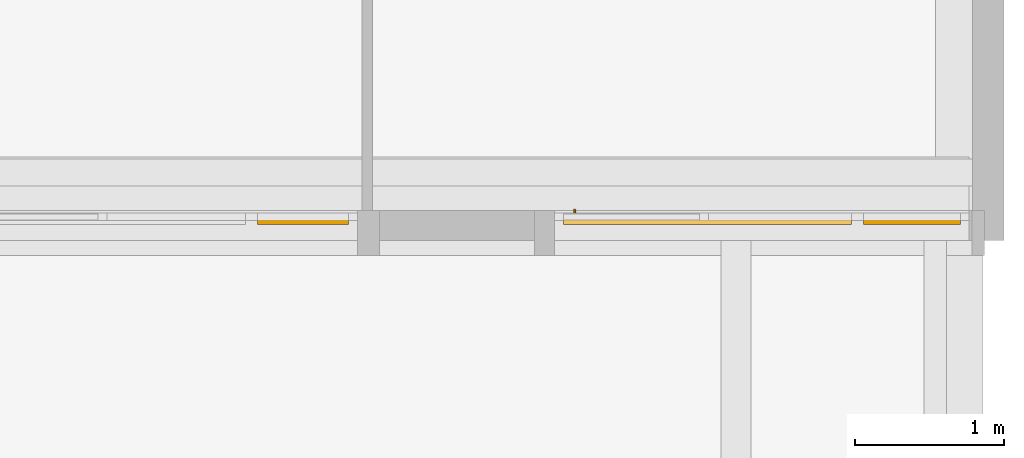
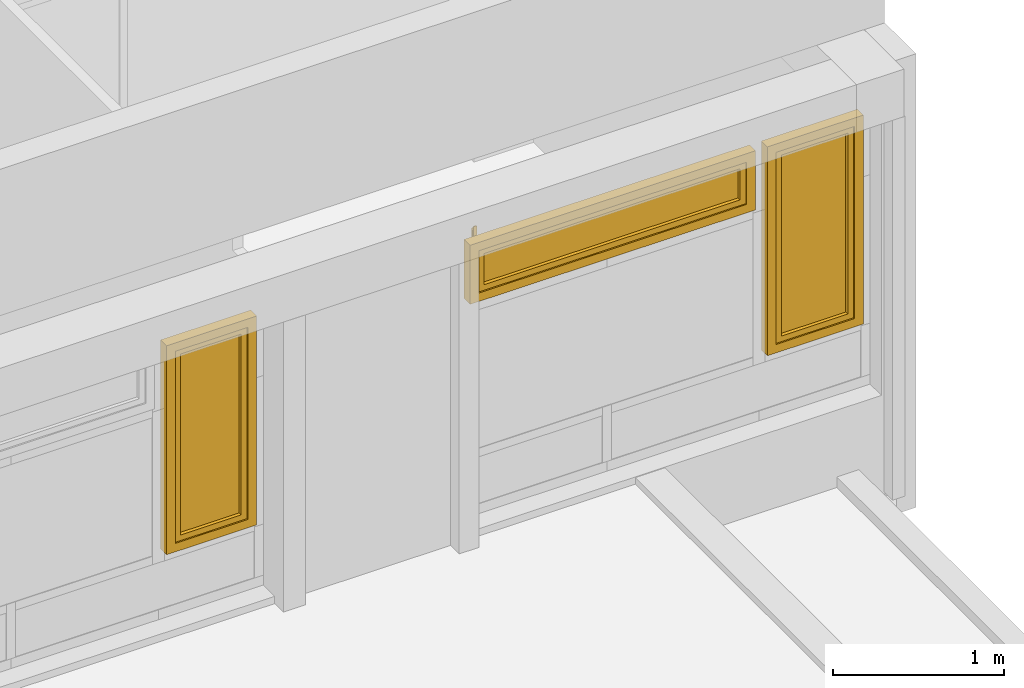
# One storey, part 44 of 49: 3 windows, 2 elements without a shape of their own.
"""IFC4 building model written with IfcOpenShell, lengths in metres."""

from ifc_helpers import new_model, entity, si_unit, converted_unit, derived_unit, direction, frame, origin, place, context, subcontext, project, spatial, polygons, source, transform, mapped, material, material_list, constituent, constituent_set, type_object, type_shapes, element, aggregate, save


model = new_model("IFC4")

# Units and contexts
model_context = context("Model", 3, precision=1e-05, world=origin(), true_north=direction((6.12303176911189e-17, 1.0)))
body_context = subcontext(model_context, "Body", "Model", "MODEL_VIEW")
ifc_project = project(units=[si_unit("LENGTHUNIT", "METRE"), si_unit("AREAUNIT", "SQUARE_METRE"), si_unit("VOLUMEUNIT", "CUBIC_METRE"), converted_unit("PLANEANGLEUNIT", "DEGREE", entity("IfcRatioMeasure", 0.0174532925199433), si_unit("PLANEANGLEUNIT", "RADIAN"), dimensions=[0, 0, 0, 0, 0, 0, 0]), si_unit("MASSUNIT", "GRAM", prefix="KILO"), derived_unit("MASSDENSITYUNIT", [(si_unit("MASSUNIT", "GRAM", prefix="KILO"), 1), (si_unit("LENGTHUNIT", "METRE"), -3)]), derived_unit("MOMENTOFINERTIAUNIT", [(si_unit("LENGTHUNIT", "METRE"), 4)]), si_unit("TIMEUNIT", "SECOND"), si_unit("FREQUENCYUNIT", "HERTZ"), si_unit("THERMODYNAMICTEMPERATUREUNIT", "DEGREE_CELSIUS"), derived_unit("THERMALTRANSMITTANCEUNIT", [(si_unit("MASSUNIT", "GRAM", prefix="KILO"), 1), (si_unit("THERMODYNAMICTEMPERATUREUNIT", "KELVIN"), -1), (si_unit("TIMEUNIT", "SECOND"), -3)]), derived_unit("VOLUMETRICFLOWRATEUNIT", [(si_unit("LENGTHUNIT", "METRE"), 3), (si_unit("TIMEUNIT", "SECOND"), -1)]), si_unit("ELECTRICCURRENTUNIT", "AMPERE"), si_unit("ELECTRICVOLTAGEUNIT", "VOLT"), si_unit("POWERUNIT", "WATT"), si_unit("FORCEUNIT", "NEWTON", prefix="KILO"), si_unit("ILLUMINANCEUNIT", "LUX"), si_unit("LUMINOUSFLUXUNIT", "LUMEN"), si_unit("LUMINOUSINTENSITYUNIT", "CANDELA"), derived_unit("USERDEFINED", [(si_unit("MASSUNIT", "GRAM", prefix="KILO"), -1), (si_unit("LENGTHUNIT", "METRE"), -2), (si_unit("TIMEUNIT", "SECOND"), 3), (si_unit("LUMINOUSFLUXUNIT", "LUMEN"), 1)]), derived_unit("LINEARVELOCITYUNIT", [(si_unit("LENGTHUNIT", "METRE"), 1), (si_unit("TIMEUNIT", "SECOND"), -1)]), si_unit("PRESSUREUNIT", "PASCAL"), derived_unit("USERDEFINED", [(si_unit("LENGTHUNIT", "METRE"), -2), (si_unit("MASSUNIT", "GRAM", prefix="KILO"), 1), (si_unit("TIMEUNIT", "SECOND"), -2)]), derived_unit("LINEARFORCEUNIT", [(si_unit("MASSUNIT", "GRAM", prefix="KILO"), 1), (si_unit("LENGTHUNIT", "METRE"), 1), (si_unit("TIMEUNIT", "SECOND"), -2), (si_unit("LENGTHUNIT", "METRE"), -1)]), derived_unit("PLANARFORCEUNIT", [(si_unit("MASSUNIT", "GRAM", prefix="KILO"), 1), (si_unit("LENGTHUNIT", "METRE"), 1), (si_unit("TIMEUNIT", "SECOND"), -2), (si_unit("LENGTHUNIT", "METRE"), -2)])], contexts=[model_context])

# Site, building, storey
site_placement = place(None, origin())
site = spatial("IfcSite", under=ifc_project, at=site_placement, Name="Default", CompositionType="ELEMENT")
building_placement = place(site_placement, origin())
building = spatial("IfcBuilding", under=site, at=building_placement, Name="HOTEL CONSULAIRE BOULOGNE SUR MER", CompositionType="ELEMENT")
storey_placement = place(building_placement, frame((0.0, 0.0, 6.81974152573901)))
storey = spatial("IfcBuildingStorey", under=building, at=storey_placement, Name="Niveau 2", CompositionType="ELEMENT", Elevation=6.81974152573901)

# Curtain wall, windows
curtain_wall_type = type_object("IfcCurtainWallType", Name="Mur-rideau:Simple panneau", PredefinedType="NOTDEFINED")
curtain_wall_1_placement = place(storey_placement, frame((0.0, 0.0, -6.81974152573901)))
curtain_wall_1 = element("IfcCurtainWall", 1, at=curtain_wall_1_placement, inside=storey, type_object=curtain_wall_type, Name="Mur-rideau:Simple panneau", ObjectType="Mur-rideau:Simple panneau", PredefinedType="NOTDEFINED")
ifc_material_1 = material(Name="PVC - Blanc", Category="Plastique")
ifc_constituent_1 = constituent(ifc_material_1, Name="PVC - Blanc", Category="Matériaux")
ifc_material_2 = material(Name="Fenêtre - Vitrage", Category="Verre")
ifc_constituent_2 = constituent(ifc_material_2, Name="Fenêtre - Vitrage", Category="Matériaux")
ifc_constituent_set_1 = constituent_set(constituents=[ifc_constituent_1, ifc_constituent_2], Name="MaterialConstituentSet")
ifc_material_list_1 = material_list([ifc_material_1, ifc_material_1])
window_type_1 = type_object("IfcWindowType", Name="MR 1 Vantail:MR 1 Vantail", PartitioningType="NOTDEFINED", PredefinedType="WINDOW", material=ifc_material_list_1)
shared_shape_1 = source(origin(), body_context, "Body", "Tessellation", [
    polygons([(-0.255146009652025, 0.0492408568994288, 0.472033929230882), (-0.256533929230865, 0.0492408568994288, 0.470646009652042), (-0.256533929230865, 0.0492408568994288, 0.459332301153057), (-0.25516769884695, 0.0492408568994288, 0.457966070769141), (-0.24383230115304, 0.0492408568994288, 0.457966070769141), (-0.242466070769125, 0.0492408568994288, 0.459332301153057), (-0.242466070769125, 0.0492408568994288, 0.470646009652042), (-0.243853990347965, 0.0492408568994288, 0.472033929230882), (-0.255146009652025, 0.0621544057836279, 0.472033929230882), (-0.256533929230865, 0.061579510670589, 0.470646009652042), (-0.256533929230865, 0.0748868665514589, 0.457338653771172), (-0.256533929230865, 0.0748868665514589, 0.370000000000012), (-0.256533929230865, 0.0635731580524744, 0.370000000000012), (-0.256533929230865, 0.0635731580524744, 0.452652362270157), (-0.256533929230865, 0.0568932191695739, 0.459332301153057), (-0.25516769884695, 0.0563273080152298, 0.457966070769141), (-0.24383230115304, 0.0563273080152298, 0.457966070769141), (-0.242466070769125, 0.056893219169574, 0.459332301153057), (-0.242466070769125, 0.0635731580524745, 0.452652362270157), (-0.242466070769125, 0.0635731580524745, 0.370000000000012), (-0.242466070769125, 0.0748868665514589, 0.370000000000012), (-0.242466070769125, 0.074886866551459, 0.457338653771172), (-0.242466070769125, 0.061579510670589, 0.470646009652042), (-0.243853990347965, 0.0621544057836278, 0.472033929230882), (-0.255146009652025, 0.0762747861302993, 0.457913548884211), (-0.25516769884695, 0.0622069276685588, 0.452086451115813), (-0.24383230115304, 0.0622069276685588, 0.452086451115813), (-0.243853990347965, 0.0762747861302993, 0.457913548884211), (-0.255146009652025, 0.0762747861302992, 0.370000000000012), (-0.243853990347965, 0.0762747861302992, 0.370000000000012), (-0.24383230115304, 0.0622069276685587, 0.370000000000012), (-0.25516769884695, 0.0622069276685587, 0.370000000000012)], [[[5, 6, 7, 8, 1, 2, 3, 4]], [[27, 26, 32, 31]], [[2, 1, 9, 10]], [[2, 10, 11, 12, 13, 14, 15, 3]], [[4, 3, 15, 16]], [[5, 4, 16, 17]], [[32, 13, 12, 29, 30, 21, 20, 31]], [[6, 5, 17, 18]], [[6, 18, 19, 20, 21, 22, 23, 7]], [[8, 7, 23, 24]], [[1, 8, 24, 9]], [[10, 9, 25, 11]], [[16, 15, 14, 26]], [[17, 16, 26, 27]], [[18, 17, 27, 19]], [[24, 23, 22, 28]], [[9, 24, 28, 25]], [[11, 25, 29, 12]], [[26, 14, 13, 32]], [[19, 27, 31, 20]], [[28, 22, 21, 30]], [[25, 28, 30, 29]]], closed=True),
    polygons([(-0.256500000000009, 0.0432408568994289, 0.490000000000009), (-0.261499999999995, 0.0432408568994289, 0.48500000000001), (-0.261499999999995, 0.0432408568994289, 0.414999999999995), (-0.256500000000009, 0.0432408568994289, 0.410000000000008), (-0.242499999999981, 0.0432408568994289, 0.410000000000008), (-0.237499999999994, 0.0432408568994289, 0.414999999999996), (-0.237499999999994, 0.0432408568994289, 0.48500000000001), (-0.242499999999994, 0.0432408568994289, 0.490000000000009), (-0.256500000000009, 0.0492408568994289, 0.490000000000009), (-0.242499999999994, 0.0492408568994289, 0.490000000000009), (-0.237499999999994, 0.0492408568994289, 0.48500000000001), (-0.237499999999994, 0.0492408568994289, 0.414999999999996), (-0.242499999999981, 0.0492408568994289, 0.410000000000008), (-0.256500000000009, 0.0492408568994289, 0.410000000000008), (-0.261499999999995, 0.0492408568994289, 0.414999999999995), (-0.261499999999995, 0.0492408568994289, 0.48500000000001)], [[[1, 2, 3, 4, 5, 6, 7, 8]], [[14, 15, 16, 9, 10, 11, 12, 13]], [[2, 1, 9, 16]], [[3, 2, 16, 15]], [[4, 3, 15, 14]], [[5, 4, 14, 13]], [[6, 5, 13, 12]], [[7, 6, 12, 11]], [[8, 7, 11, 10]], [[1, 8, 10, 9]]], closed=True),
    polygons([(0.2245, 0.0192408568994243, 1.39200000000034), (0.2245, 0.0192408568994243, 0.0999999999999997), (-0.2245, 0.0192408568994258, 0.0999999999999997), (-0.2245, 0.0192408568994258, 1.39200000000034), (0.2245, 0.00724085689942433, 1.39200000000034), (-0.2245, 0.00724085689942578, 1.39200000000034), (-0.2245, 0.00724085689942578, 0.0999999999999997), (0.2245, 0.00724085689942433, 0.0999999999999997)], [[[4, 1, 2, 3]], [[5, 6, 7, 8]], [[5, 1, 4, 6]], [[6, 4, 3, 7]], [[7, 3, 2, 8]], [[8, 2, 1, 5]]], closed=True),
    polygons([(-0.2745, -0.0167591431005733, 1.44200000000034), (0.2745, -0.0167591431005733, 1.44200000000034), (0.2745, 0.043240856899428, 1.44200000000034), (-0.2745, 0.043240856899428, 1.44200000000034), (-0.2245, 0.043240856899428, 1.39200000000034), (0.2245, 0.043240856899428, 1.39200000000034), (0.2245, -0.0167591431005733, 1.39200000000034), (-0.2245, -0.0167591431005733, 1.39200000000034), (0.274499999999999, -0.0167591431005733, 0.0500000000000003), (0.274499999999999, 0.043240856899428, 0.0500000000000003), (0.2245, 0.043240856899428, 0.0999999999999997), (0.2245, -0.0167591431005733, 0.0999999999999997), (-0.2745, -0.0167591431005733, 0.0500000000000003), (-0.2745, 0.043240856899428, 0.0500000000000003), (-0.2245, 0.043240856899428, 0.0999999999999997), (-0.2245, -0.0167591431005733, 0.0999999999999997)], [[[2, 3, 4, 1]], [[15, 16, 12, 11]], [[6, 7, 8, 5]], [[13, 14, 10, 9]], [[10, 3, 2, 9]], [[8, 16, 15, 5]], [[12, 7, 6, 11]], [[4, 14, 13, 1]], [[10, 14, 4, 3], [15, 11, 6, 5]], [[13, 9, 2, 1], [12, 16, 8, 7]]], closed=True),
    polygons([(-0.264499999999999, -0.016759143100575, 1.43200000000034), (0.264499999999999, -0.016759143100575, 1.43200000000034), (0.264499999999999, -0.0267591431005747, 1.43200000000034), (-0.264499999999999, -0.0267591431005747, 1.43200000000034), (-0.274499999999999, 0.0432408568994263, 1.44200000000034), (0.274499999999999, 0.0432408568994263, 1.44200000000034), (0.274499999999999, -0.016759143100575, 1.44200000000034), (-0.274499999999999, -0.016759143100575, 1.44200000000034), (-0.324499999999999, -0.0267591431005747, 1.49200000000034), (0.324499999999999, -0.0267591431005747, 1.49200000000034), (0.324499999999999, 0.0432408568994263, 1.49200000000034), (-0.324499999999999, 0.0432408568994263, 1.49200000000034), (0.264499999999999, -0.016759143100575, 0.0600000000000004), (0.264499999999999, -0.0267591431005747, 0.0600000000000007), (0.274499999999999, 0.0432408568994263, 0.0500000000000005), (0.274499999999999, -0.016759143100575, 0.0500000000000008), (0.324499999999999, -0.0267591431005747, 5.41433564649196e-16), (0.324499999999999, 0.0432408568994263, 5.41433564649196e-16), (-0.264499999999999, -0.016759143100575, 0.0600000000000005), (-0.264499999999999, -0.0267591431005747, 0.0600000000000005), (-0.274499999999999, 0.0432408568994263, 0.0500000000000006), (-0.274499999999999, -0.016759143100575, 0.0500000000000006), (-0.324499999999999, -0.0267591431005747, 6.09112760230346e-16), (-0.324499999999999, 0.0432408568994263, 6.09112760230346e-16)], [[[2, 3, 4, 1]], [[6, 7, 8, 5]], [[23, 24, 18, 17]], [[10, 11, 12, 9]], [[19, 20, 14, 13]], [[22, 16, 15, 21]], [[14, 3, 2, 13]], [[16, 7, 6, 15]], [[9, 12, 24, 23]], [[17, 18, 11, 10]], [[4, 20, 19, 1]], [[8, 22, 21, 5]], [[23, 17, 10, 9], [14, 20, 4, 3]], [[16, 22, 8, 7], [19, 13, 2, 1]], [[18, 24, 12, 11], [21, 15, 6, 5]]], closed=True),
])
type_shapes(window_type_1, [shared_shape_1])
window_1_placement = place(curtain_wall_1_placement, frame((22.1805413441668, -23.8933633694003, 7.97974152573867)))
window_1 = element("IfcWindow", 2, at=window_1_placement, type_object=window_type_1, material=ifc_constituent_set_1, Name="MR 1 Vantail:MR 1 Vantail", ObjectType="MR 1 Vantail:MR 1 Vantail", OverallHeight=1.49200000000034, OverallWidth=0.649, PartitioningType="NOTDEFINED", PredefinedType="WINDOW", context=body_context, shape_type="MappedRepresentation", body=[
    mapped(shared_shape_1, transform((0.0, 0.0, 0.0), scale=1.0)),
])
ifc_constituent_3 = constituent(ifc_material_1, Name="PVC - Blanc", Category="Matériaux")
ifc_constituent_4 = constituent(ifc_material_2, Name="Fenêtre - Vitrage", Category="Matériaux")
ifc_constituent_set_2 = constituent_set(constituents=[ifc_constituent_3, ifc_constituent_4], Name="MaterialConstituentSet")
ifc_material_list_2 = material_list([ifc_material_1, ifc_material_1])
window_type_2 = type_object("IfcWindowType", Name="MR 1 Vantail:MR 1 Vantail", PartitioningType="NOTDEFINED", PredefinedType="WINDOW", material=ifc_material_list_2)
shared_shape_2 = source(origin(), body_context, "Body", "Tessellation", [
    polygons([(-0.894646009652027, 0.0492408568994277, 0.472033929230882), (-0.896033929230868, 0.0492408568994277, 0.470646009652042), (-0.896033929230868, 0.0492408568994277, 0.459332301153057), (-0.894667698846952, 0.0492408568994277, 0.457966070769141), (-0.883332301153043, 0.0492408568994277, 0.457966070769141), (-0.881966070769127, 0.0492408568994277, 0.459332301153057), (-0.881966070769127, 0.0492408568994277, 0.470646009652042), (-0.883353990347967, 0.0492408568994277, 0.472033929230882), (-0.894646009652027, 0.0621544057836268, 0.472033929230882), (-0.896033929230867, 0.0615795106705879, 0.470646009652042), (-0.896033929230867, 0.0748868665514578, 0.457338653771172), (-0.896033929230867, 0.0748868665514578, 0.370000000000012), (-0.896033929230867, 0.0635731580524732, 0.370000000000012), (-0.896033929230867, 0.0635731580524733, 0.452652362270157), (-0.896033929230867, 0.0568932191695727, 0.459332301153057), (-0.894667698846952, 0.0563273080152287, 0.457966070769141), (-0.883332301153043, 0.0563273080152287, 0.457966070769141), (-0.881966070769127, 0.0568932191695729, 0.459332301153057), (-0.881966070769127, 0.0635731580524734, 0.452652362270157), (-0.881966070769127, 0.0635731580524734, 0.370000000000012), (-0.881966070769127, 0.0748868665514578, 0.370000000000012), (-0.881966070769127, 0.0748868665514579, 0.457338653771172), (-0.881966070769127, 0.0615795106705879, 0.470646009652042), (-0.883353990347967, 0.0621544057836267, 0.472033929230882), (-0.894646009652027, 0.0762747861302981, 0.457913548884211), (-0.894667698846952, 0.0622069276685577, 0.452086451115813), (-0.883332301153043, 0.0622069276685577, 0.452086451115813), (-0.883353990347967, 0.0762747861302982, 0.457913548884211), (-0.894646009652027, 0.0762747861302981, 0.370000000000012), (-0.883353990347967, 0.0762747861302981, 0.370000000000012), (-0.883332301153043, 0.0622069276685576, 0.370000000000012), (-0.894667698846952, 0.0622069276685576, 0.370000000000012)], [[[5, 6, 7, 8, 1, 2, 3, 4]], [[27, 26, 32, 31]], [[2, 1, 9, 10]], [[2, 10, 11, 12, 13, 14, 15, 3]], [[4, 3, 15, 16]], [[5, 4, 16, 17]], [[32, 13, 12, 29, 30, 21, 20, 31]], [[6, 5, 17, 18]], [[6, 18, 19, 20, 21, 22, 23, 7]], [[8, 7, 23, 24]], [[1, 8, 24, 9]], [[10, 9, 25, 11]], [[16, 15, 14, 26]], [[17, 16, 26, 27]], [[18, 17, 27, 19]], [[24, 23, 22, 28]], [[9, 24, 28, 25]], [[11, 25, 29, 12]], [[26, 14, 13, 32]], [[19, 27, 31, 20]], [[28, 22, 21, 30]], [[25, 28, 30, 29]]], closed=True),
    polygons([(-0.896000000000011, 0.0432408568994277, 0.490000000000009), (-0.900999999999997, 0.0432408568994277, 0.48500000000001), (-0.900999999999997, 0.0432408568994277, 0.414999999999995), (-0.896000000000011, 0.0432408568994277, 0.410000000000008), (-0.881999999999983, 0.0432408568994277, 0.410000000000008), (-0.876999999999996, 0.0432408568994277, 0.414999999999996), (-0.876999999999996, 0.0432408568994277, 0.48500000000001), (-0.881999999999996, 0.0432408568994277, 0.490000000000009), (-0.896000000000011, 0.0492408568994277, 0.490000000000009), (-0.881999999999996, 0.0492408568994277, 0.490000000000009), (-0.876999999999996, 0.0492408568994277, 0.48500000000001), (-0.876999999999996, 0.0492408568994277, 0.414999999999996), (-0.881999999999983, 0.0492408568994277, 0.410000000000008), (-0.896000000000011, 0.0492408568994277, 0.410000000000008), (-0.900999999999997, 0.0492408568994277, 0.414999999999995), (-0.900999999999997, 0.0492408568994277, 0.48500000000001)], [[[1, 2, 3, 4, 5, 6, 7, 8]], [[14, 15, 16, 9, 10, 11, 12, 13]], [[2, 1, 9, 16]], [[3, 2, 16, 15]], [[4, 3, 15, 14]], [[5, 4, 14, 13]], [[6, 5, 13, 12]], [[7, 6, 12, 11]], [[8, 7, 11, 10]], [[1, 8, 10, 9]]], closed=True),
    polygons([(0.864000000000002, 0.0192408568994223, 0.32200000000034), (0.864000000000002, 0.0192408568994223, 0.0999999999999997), (-0.864000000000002, 0.0192408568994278, 0.0999999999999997), (-0.864000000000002, 0.0192408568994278, 0.32200000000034), (0.864000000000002, 0.00724085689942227, 0.32200000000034), (-0.864000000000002, 0.00724085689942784, 0.32200000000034), (-0.864000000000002, 0.00724085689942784, 0.0999999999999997), (0.864000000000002, 0.00724085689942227, 0.0999999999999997)], [[[4, 1, 2, 3]], [[5, 6, 7, 8]], [[5, 1, 4, 6]], [[7, 6, 4, 3]], [[7, 3, 2, 8]], [[5, 8, 2, 1]]], closed=True),
    polygons([(-0.914000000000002, -0.0167591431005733, 0.372000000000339), (0.914000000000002, -0.0167591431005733, 0.372000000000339), (0.914000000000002, 0.043240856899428, 0.372000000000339), (-0.914000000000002, 0.043240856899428, 0.372000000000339), (-0.864000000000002, 0.043240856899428, 0.32200000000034), (0.864000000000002, 0.043240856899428, 0.32200000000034), (0.864000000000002, -0.0167591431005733, 0.32200000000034), (-0.864000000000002, -0.0167591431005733, 0.32200000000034), (0.914000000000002, -0.0167591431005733, 0.0500000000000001), (0.914000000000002, 0.043240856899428, 0.0500000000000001), (0.864000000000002, 0.043240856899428, 0.0999999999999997), (0.864000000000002, -0.0167591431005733, 0.0999999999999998), (-0.914000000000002, -0.0167591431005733, 0.0500000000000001), (-0.914000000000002, 0.043240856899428, 0.0500000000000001), (-0.864000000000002, 0.043240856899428, 0.0999999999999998), (-0.864000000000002, -0.0167591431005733, 0.0999999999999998)], [[[2, 3, 4, 1]], [[16, 12, 11, 15]], [[7, 8, 5, 6]], [[13, 14, 10, 9]], [[10, 3, 2, 9]], [[5, 8, 16, 15]], [[12, 7, 6, 11]], [[4, 14, 13, 1]], [[14, 4, 3, 10], [11, 6, 5, 15]], [[9, 2, 1, 13], [16, 8, 7, 12]]], closed=True),
    polygons([(-0.904000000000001, -0.016759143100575, 0.362000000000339), (0.904000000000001, -0.016759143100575, 0.362000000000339), (0.904000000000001, -0.0267591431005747, 0.362000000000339), (-0.904000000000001, -0.0267591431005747, 0.362000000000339), (-0.914000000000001, 0.0432408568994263, 0.372000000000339), (0.914000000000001, 0.0432408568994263, 0.372000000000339), (0.914000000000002, -0.016759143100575, 0.372000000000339), (-0.914000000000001, -0.016759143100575, 0.372000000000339), (-0.964000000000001, -0.0267591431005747, 0.422000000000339), (0.964000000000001, -0.0267591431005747, 0.422000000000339), (0.964000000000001, 0.0432408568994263, 0.422000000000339), (-0.964000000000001, 0.0432408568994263, 0.422000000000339), (0.904000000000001, -0.016759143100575, 0.0600000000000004), (0.904000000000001, -0.0267591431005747, 0.0600000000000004), (0.914000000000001, 0.0432408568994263, 0.0500000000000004), (0.914000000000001, -0.016759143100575, 0.0500000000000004), (0.964000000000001, -0.0267591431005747, 4.06075173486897e-16), (0.964000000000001, 0.0432408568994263, 4.06075173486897e-16), (-0.904000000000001, -0.016759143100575, 0.0600000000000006), (-0.904000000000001, -0.0267591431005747, 0.0600000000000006), (-0.914000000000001, 0.0432408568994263, 0.0500000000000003), (-0.914000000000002, -0.016759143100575, 0.0500000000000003), (-0.964000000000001, -0.0267591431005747, 4.73754369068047e-16), (-0.964000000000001, 0.0432408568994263, 4.73754369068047e-16)], [[[2, 3, 4, 1]], [[6, 7, 8, 5]], [[24, 18, 17, 23]], [[11, 12, 9, 10]], [[19, 20, 14, 13]], [[21, 22, 16, 15]], [[14, 3, 2, 13]], [[15, 16, 7, 6]], [[12, 24, 23, 9]], [[18, 11, 10, 17]], [[4, 20, 19, 1]], [[5, 8, 22, 21]], [[17, 10, 9, 23], [20, 4, 3, 14]], [[22, 8, 7, 16], [13, 2, 1, 19]], [[24, 12, 11, 18], [15, 6, 5, 21]]], closed=True),
])
type_shapes(window_type_2, [shared_shape_2])
window_2_placement = place(curtain_wall_1_placement, frame((20.8120413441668, -23.8933633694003, 9.04974152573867)))
window_2 = element("IfcWindow", 3, at=window_2_placement, type_object=window_type_2, material=ifc_constituent_set_2, Name="MR 1 Vantail:MR 1 Vantail", ObjectType="MR 1 Vantail:MR 1 Vantail", OverallHeight=0.490000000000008, OverallWidth=1.928, PartitioningType="NOTDEFINED", PredefinedType="WINDOW", context=body_context, shape_type="MappedRepresentation", body=[
    mapped(shared_shape_2, transform((0.0, 0.0, 0.0), scale=1.0)),
])
aggregate(curtain_wall_1, [window_1, window_2])

# Curtain wall, window
curtain_wall_2_placement = place(storey_placement, frame((0.0, 0.0, -6.81974152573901)))
curtain_wall_2 = element("IfcCurtainWall", 4, at=curtain_wall_2_placement, inside=storey, type_object=curtain_wall_type, Name="Mur-rideau:Simple panneau", ObjectType="Mur-rideau:Simple panneau", PredefinedType="NOTDEFINED")
ifc_constituent_5 = constituent(ifc_material_1, Name="PVC - Blanc", Category="Matériaux")
ifc_constituent_6 = constituent(ifc_material_2, Name="Fenêtre - Vitrage", Category="Matériaux")
ifc_constituent_set_3 = constituent_set(constituents=[ifc_constituent_5, ifc_constituent_6], Name="MaterialConstituentSet")
ifc_material_list_3 = material_list([ifc_material_1, ifc_material_1])
window_type_3 = type_object("IfcWindowType", Name="MR 1 Vantail:MR 1 Vantail", PartitioningType="NOTDEFINED", PredefinedType="WINDOW", material=ifc_material_list_3)
shared_shape_3 = source(origin(), body_context, "Body", "Tessellation", [
    polygons([(-0.235146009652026, 0.0492408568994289, 0.472033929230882), (-0.236533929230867, 0.0492408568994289, 0.470646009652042), (-0.236533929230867, 0.0492408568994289, 0.459332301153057), (-0.235167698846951, 0.0492408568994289, 0.457966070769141), (-0.223832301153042, 0.0492408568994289, 0.457966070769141), (-0.222466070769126, 0.0492408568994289, 0.459332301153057), (-0.222466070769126, 0.0492408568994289, 0.470646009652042), (-0.223853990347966, 0.0492408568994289, 0.472033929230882), (-0.235146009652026, 0.0621544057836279, 0.472033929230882), (-0.236533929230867, 0.0615795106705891, 0.470646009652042), (-0.236533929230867, 0.074886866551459, 0.457338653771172), (-0.236533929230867, 0.074886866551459, 0.370000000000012), (-0.236533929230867, 0.0635731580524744, 0.370000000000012), (-0.236533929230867, 0.0635731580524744, 0.452652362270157), (-0.236533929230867, 0.0568932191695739, 0.459332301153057), (-0.235167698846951, 0.0563273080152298, 0.457966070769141), (-0.223832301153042, 0.0563273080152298, 0.457966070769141), (-0.222466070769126, 0.056893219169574, 0.459332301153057), (-0.222466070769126, 0.0635731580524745, 0.452652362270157), (-0.222466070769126, 0.0635731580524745, 0.370000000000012), (-0.222466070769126, 0.074886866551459, 0.370000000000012), (-0.222466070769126, 0.074886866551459, 0.457338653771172), (-0.222466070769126, 0.0615795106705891, 0.470646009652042), (-0.223853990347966, 0.0621544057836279, 0.472033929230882), (-0.235146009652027, 0.0762747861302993, 0.457913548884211), (-0.235167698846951, 0.0622069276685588, 0.452086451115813), (-0.223832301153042, 0.0622069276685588, 0.452086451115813), (-0.223853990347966, 0.0762747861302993, 0.457913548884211), (-0.235146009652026, 0.0762747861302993, 0.370000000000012), (-0.223853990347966, 0.0762747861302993, 0.370000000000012), (-0.223832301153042, 0.0622069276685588, 0.370000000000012), (-0.235167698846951, 0.0622069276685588, 0.370000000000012)], [[[5, 6, 7, 8, 1, 2, 3, 4]], [[27, 26, 32, 31]], [[2, 1, 9, 10]], [[2, 10, 11, 12, 13, 14, 15, 3]], [[4, 3, 15, 16]], [[5, 4, 16, 17]], [[32, 13, 12, 29, 30, 21, 20, 31]], [[6, 5, 17, 18]], [[6, 18, 19, 20, 21, 22, 23, 7]], [[8, 7, 23, 24]], [[1, 8, 24, 9]], [[10, 9, 25, 11]], [[16, 15, 14, 26]], [[17, 16, 26, 27]], [[18, 17, 27, 19]], [[24, 23, 22, 28]], [[9, 24, 28, 25]], [[11, 25, 29, 12]], [[26, 14, 13, 32]], [[19, 27, 31, 20]], [[28, 22, 21, 30]], [[25, 28, 30, 29]]], closed=True),
    polygons([(-0.236500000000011, 0.0432408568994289, 0.490000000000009), (-0.241499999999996, 0.0432408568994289, 0.48500000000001), (-0.241499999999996, 0.0432408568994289, 0.414999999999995), (-0.236500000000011, 0.0432408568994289, 0.410000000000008), (-0.222499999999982, 0.0432408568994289, 0.410000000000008), (-0.217499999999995, 0.0432408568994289, 0.414999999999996), (-0.217499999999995, 0.0432408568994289, 0.48500000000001), (-0.222499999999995, 0.0432408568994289, 0.490000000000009), (-0.236500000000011, 0.0492408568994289, 0.490000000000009), (-0.222499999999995, 0.0492408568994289, 0.490000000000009), (-0.217499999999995, 0.0492408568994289, 0.48500000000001), (-0.217499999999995, 0.0492408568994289, 0.414999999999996), (-0.222499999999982, 0.0492408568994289, 0.410000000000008), (-0.236500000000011, 0.0492408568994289, 0.410000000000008), (-0.241499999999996, 0.0492408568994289, 0.414999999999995), (-0.241499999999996, 0.0492408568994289, 0.48500000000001)], [[[1, 2, 3, 4, 5, 6, 7, 8]], [[14, 15, 16, 9, 10, 11, 12, 13]], [[2, 1, 9, 16]], [[3, 2, 16, 15]], [[4, 3, 15, 14]], [[5, 4, 14, 13]], [[6, 5, 13, 12]], [[7, 6, 12, 11]], [[8, 7, 11, 10]], [[1, 8, 10, 9]]], closed=True),
    polygons([(0.204500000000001, 0.0192408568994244, 1.39200000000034), (0.204500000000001, 0.0192408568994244, 0.1), (-0.204500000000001, 0.0192408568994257, 0.1), (-0.204500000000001, 0.0192408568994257, 1.39200000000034), (0.204500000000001, 0.0072408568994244, 1.39200000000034), (-0.204500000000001, 0.00724085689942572, 1.39200000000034), (-0.204500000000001, 0.00724085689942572, 0.1), (0.204500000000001, 0.0072408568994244, 0.1)], [[[4, 1, 2, 3]], [[5, 6, 7, 8]], [[5, 1, 4, 6]], [[6, 4, 3, 7]], [[7, 3, 2, 8]], [[8, 2, 1, 5]]], closed=True),
    polygons([(-0.254500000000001, -0.0167591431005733, 1.44200000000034), (0.254500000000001, -0.0167591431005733, 1.44200000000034), (0.254500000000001, 0.043240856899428, 1.44200000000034), (-0.254500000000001, 0.043240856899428, 1.44200000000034), (-0.204500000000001, 0.043240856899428, 1.39200000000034), (0.204500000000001, 0.043240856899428, 1.39200000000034), (0.204500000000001, -0.0167591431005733, 1.39200000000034), (-0.204500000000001, -0.0167591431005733, 1.39200000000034), (0.254500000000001, -0.0167591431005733, 0.0500000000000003), (0.254500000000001, 0.043240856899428, 0.0500000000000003), (0.204500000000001, 0.043240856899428, 0.1), (0.204500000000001, -0.0167591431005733, 0.1), (-0.254500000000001, -0.0167591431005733, 0.0500000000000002), (-0.254500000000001, 0.043240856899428, 0.0500000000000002), (-0.204500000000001, 0.043240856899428, 0.1), (-0.204500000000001, -0.0167591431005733, 0.1)], [[[3, 4, 1, 2]], [[15, 16, 12, 11]], [[6, 7, 8, 5]], [[13, 14, 10, 9]], [[10, 3, 2, 9]], [[5, 8, 16, 15]], [[11, 12, 7, 6]], [[4, 14, 13, 1]], [[10, 14, 4, 3], [15, 11, 6, 5]], [[13, 9, 2, 1], [12, 16, 8, 7]]], closed=True),
    polygons([(-0.244500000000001, -0.016759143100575, 1.43200000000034), (0.244500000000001, -0.016759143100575, 1.43200000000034), (0.244500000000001, -0.0267591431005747, 1.43200000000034), (-0.244500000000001, -0.0267591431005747, 1.43200000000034), (-0.254500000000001, 0.0432408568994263, 1.44200000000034), (0.254500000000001, 0.0432408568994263, 1.44200000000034), (0.254500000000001, -0.016759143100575, 1.44200000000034), (-0.254500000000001, -0.016759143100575, 1.44200000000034), (-0.304500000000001, -0.0267591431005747, 1.49200000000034), (0.304500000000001, -0.0267591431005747, 1.49200000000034), (0.304500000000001, 0.0432408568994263, 1.49200000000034), (-0.304500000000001, 0.0432408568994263, 1.49200000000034), (0.244500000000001, -0.016759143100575, 0.0600000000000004), (0.244500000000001, -0.0267591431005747, 0.0600000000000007), (0.254500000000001, 0.0432408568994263, 0.0500000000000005), (0.254500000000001, -0.016759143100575, 0.0500000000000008), (0.304500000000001, -0.0267591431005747, 5.41433564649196e-16), (0.304500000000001, 0.0432408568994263, 5.41433564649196e-16), (-0.244500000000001, -0.016759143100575, 0.0600000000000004), (-0.244500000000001, -0.0267591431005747, 0.0600000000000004), (-0.254500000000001, 0.0432408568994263, 0.0500000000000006), (-0.254500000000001, -0.016759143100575, 0.0500000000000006), (-0.304500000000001, -0.0267591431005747, 5.75273162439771e-16), (-0.304500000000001, 0.0432408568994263, 5.75273162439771e-16)], [[[3, 4, 1, 2]], [[6, 7, 8, 5]], [[23, 24, 18, 17]], [[10, 11, 12, 9]], [[20, 14, 13, 19]], [[21, 22, 16, 15]], [[14, 3, 2, 13]], [[16, 7, 6, 15]], [[9, 12, 24, 23]], [[17, 18, 11, 10]], [[4, 20, 19, 1]], [[8, 22, 21, 5]], [[23, 17, 10, 9], [14, 20, 4, 3]], [[16, 22, 8, 7], [19, 13, 2, 1]], [[18, 24, 12, 11], [21, 15, 6, 5]]], closed=True),
])
type_shapes(window_type_3, [shared_shape_3])
window_3_placement = place(curtain_wall_2_placement, frame((18.1025413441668, -23.8933633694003, 7.97974152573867)))
window_3 = element("IfcWindow", 5, at=window_3_placement, type_object=window_type_3, material=ifc_constituent_set_3, Name="MR 1 Vantail:MR 1 Vantail", ObjectType="MR 1 Vantail:MR 1 Vantail", OverallHeight=1.49200000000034, OverallWidth=0.609000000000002, PartitioningType="NOTDEFINED", PredefinedType="WINDOW", context=body_context, shape_type="MappedRepresentation", body=[
    mapped(shared_shape_3, transform((0.0, 0.0, 0.0), scale=1.0)),
])
aggregate(curtain_wall_2, [window_3])

save(model, "model.ifc")
